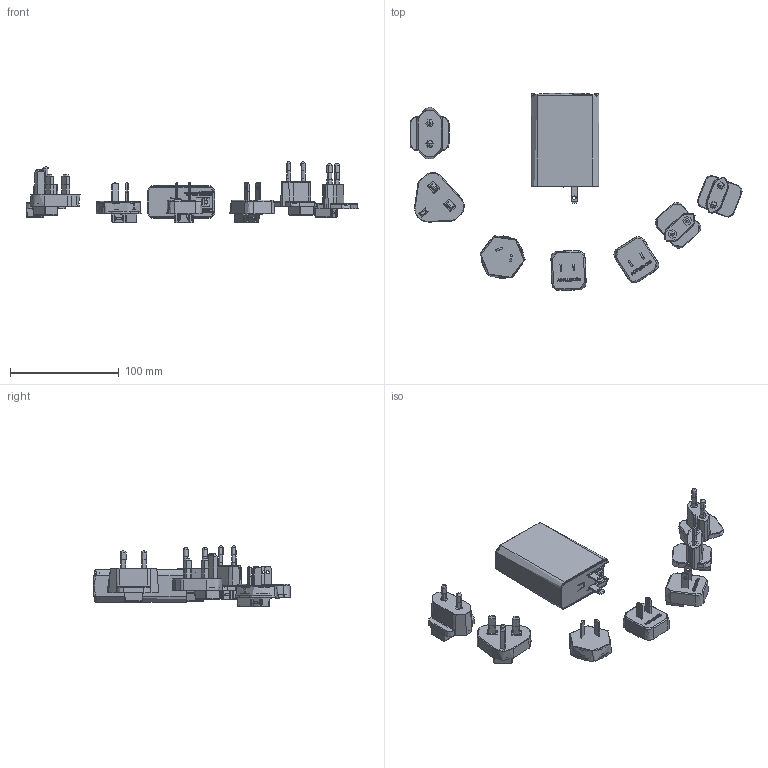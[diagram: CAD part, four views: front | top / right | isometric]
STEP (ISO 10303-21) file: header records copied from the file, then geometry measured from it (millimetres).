
FILE_DESCRIPTION(('Creo Elements/Direct Modeling STEP Export'),'2;1');
FILE_NAME('NGE100.stp','2024-07-17T16:33:18',(''),(''),'PTC Creo Elements/Direct Modeling STEP processor for AP214 (Solid Model)','PTC Creo Elements/Direct Modeling 19.0E 27-Jun-2016 (C) Parametric Technology GmbH','');
FILE_SCHEMA(('AUTOMOTIVE_DESIGN { 1 0 10303 214 1 1 1 1 }'));
Length unit declared in the file: millimetre
Products named in the file (84): 1XX3NGE100-F_1.stp; AU; ZHAO54408073H96W_13.PRT; ZHAO54408073H96W_2.PRT; ZHAO54408073H96W_3.PRT; ZHAO54408073H96W_16.PRT; ZHAO54408073H96W_5.PRT; ZHAO54408073H96W_6.PRT; ZHAO54408073H96W.ASM; ______.stp; ZHAO54408073H96W_17.PRT; ZHAO54408073H96W_1.PRT; ZHAO54408073H96W_4.PRT; ZHAO54408073H96W_9.PRT; ZHAO54408073H96W_8.PRT; EU; 装配1; CNTYPE; 中国规; 1EE5AC_PLUG-CN4-B.stp; NGE系列插头开模图档留存.stp; 零件19; 零件20; 零件3; 零件4; 零件5; 零件6; 零件7; 零件8; 零件9; 零件10; 零件11; 零件16; Admi22DCA4144h86; 多国插头-20240112AM.stp; 多国插头.stp; NGE100-B-20230704.prt; NGE100后盖.stp; D212; D204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
Assembly tree (83 placements, depth 6):
  多国插头.stp
    多国插头-20240112AM.stp
      Admi22DCA4144h86
        零件16
        零件11
        零件10
        零件9
        零件8
        零件7
        零件6
        零件5
        零件4
        零件3
        零件20
        零件19
    NGE系列插头开模图档留存.stp
      1EE5AC_PLUG-CN4-B.stp
        中国规
          CNTYPE
            装配1
      EU
        ZHAO54408073H96W_8.PRT
        ZHAO54408073H96W_9.PRT
        ZHAO54408073H96W_4.PRT
        ZHAO54408073H96W_1.PRT
        ZHAO54408073H96W_17.PRT
      ______.stp
        ZHAO54408073H96W.ASM
          ZHAO54408073H96W_6.PRT
          ZHAO54408073H96W_5.PRT
          ZHAO54408073H96W_16.PRT
          ZHAO54408073H96W_3.PRT
          ZHAO54408073H96W_2.PRT
          ZHAO54408073H96W_13.PRT
      AU
      1XX3NGE100-F_1.stp
  NGE100后盖-20240514.stp
    NGE100C-R0X2(3).step
      PCB
        Free-Models
          USB-310HC-B-SU_L10  x2
          USB-125(3-5A)Ö±¿Ú(1).7  x2
          USB-125(3-5A)Ö±¿Ú(1)  x2
        C247
        C238
        C212
        C227
        USB1
        USB2
        D215
        D214
        D213
        D211
        D210
        D209
        D208
        D207
        D206
        D205
        D204
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Bounding box: 305.09 x 181.09 x 56.42 mm (x, y, z)
Topology: 37 solids, 44 shells, 6463 faces, 17444 edges, 11141 vertices
Faces by surface type: plane 4185, cylinder 1595, bspline 264, cone 259, torus 90, sphere 55, extrusion 15
Full cylindrical faces by diameter (mm): 1 x2
Entity records: 224150 total; most frequent: CARTESIAN_POINT 53030, ORIENTED_EDGE 30856, DIRECTION 28338, EDGE_CURVE 15436, VECTOR 10162, LINE 10151, VERTEX_POINT 9477, AXIS2_PLACEMENT_3D 9088
